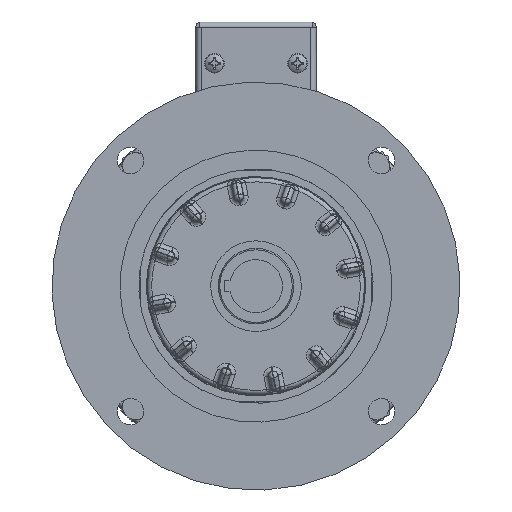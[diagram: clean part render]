
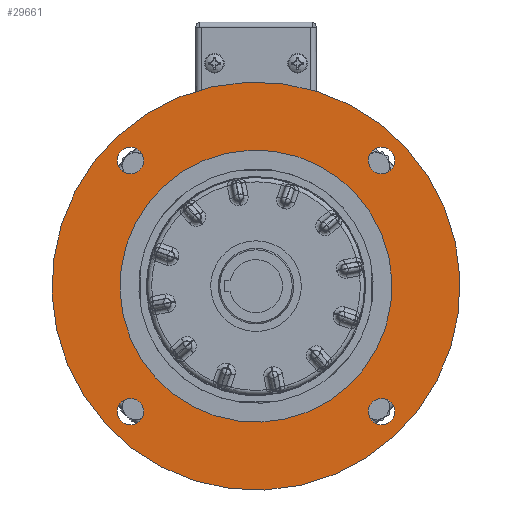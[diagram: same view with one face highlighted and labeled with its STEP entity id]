
A CAD part, front view. The second image highlights one B-rep face of the part: STEP entity #29661.
In plain terms, the highlighted planar face has unit normal (0, -1, 0).
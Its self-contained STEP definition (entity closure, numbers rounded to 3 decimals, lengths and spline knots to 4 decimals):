
#1327=FACE_BOUND('',#5174,.T.);
#1328=FACE_BOUND('',#5175,.T.);
#1329=FACE_BOUND('',#5176,.T.);
#1330=FACE_BOUND('',#5177,.T.);
#1331=FACE_BOUND('',#5178,.T.);
#1694=PLANE('',#32522);
#3202=FACE_OUTER_BOUND('',#5173,.T.);
#5173=EDGE_LOOP('',(#25426));
#5174=EDGE_LOOP('',(#25427));
#5175=EDGE_LOOP('',(#25428));
#5176=EDGE_LOOP('',(#25429));
#5177=EDGE_LOOP('',(#25430));
#5178=EDGE_LOOP('',(#25431));
#8326=CIRCLE('',#32523,3.375);
#8327=CIRCLE('',#32524,0.2188);
#8328=CIRCLE('',#32525,0.2188);
#8329=CIRCLE('',#32526,0.2188);
#8330=CIRCLE('',#32527,0.2188);
#8331=CIRCLE('',#32528,2.25);
#13492=VERTEX_POINT('',#83106);
#13493=VERTEX_POINT('',#83108);
#13494=VERTEX_POINT('',#83110);
#13495=VERTEX_POINT('',#83112);
#13496=VERTEX_POINT('',#83114);
#13497=VERTEX_POINT('',#83116);
#17596=EDGE_CURVE('',#13492,#13492,#8326,.T.);
#17597=EDGE_CURVE('',#13493,#13493,#8327,.T.);
#17598=EDGE_CURVE('',#13494,#13494,#8328,.T.);
#17599=EDGE_CURVE('',#13495,#13495,#8329,.T.);
#17600=EDGE_CURVE('',#13496,#13496,#8330,.T.);
#17601=EDGE_CURVE('',#13497,#13497,#8331,.T.);
#25426=ORIENTED_EDGE('',*,*,#17596,.T.);
#25427=ORIENTED_EDGE('',*,*,#17597,.F.);
#25428=ORIENTED_EDGE('',*,*,#17598,.F.);
#25429=ORIENTED_EDGE('',*,*,#17599,.F.);
#25430=ORIENTED_EDGE('',*,*,#17600,.F.);
#25431=ORIENTED_EDGE('',*,*,#17601,.F.);
#29661=ADVANCED_FACE('',(#3202,#1327,#1328,#1329,#1330,#1331),#1694,.F.);
#32522=AXIS2_PLACEMENT_3D('',#83105,#39061,#39062);
#32523=AXIS2_PLACEMENT_3D('',#83107,#39063,#39064);
#32524=AXIS2_PLACEMENT_3D('',#83109,#39065,#39066);
#32525=AXIS2_PLACEMENT_3D('',#83111,#39067,#39068);
#32526=AXIS2_PLACEMENT_3D('',#83113,#39069,#39070);
#32527=AXIS2_PLACEMENT_3D('',#83115,#39071,#39072);
#32528=AXIS2_PLACEMENT_3D('',#83117,#39073,#39074);
#39061=DIRECTION('center_axis',(0.,1.,0.));
#39062=DIRECTION('ref_axis',(0.383,0.,-0.924));
#39063=DIRECTION('center_axis',(0.,-1.,0.));
#39064=DIRECTION('ref_axis',(-0.383,0.,0.924));
#39065=DIRECTION('center_axis',(0.,-1.,0.));
#39066=DIRECTION('ref_axis',(-0.383,0.,0.924));
#39067=DIRECTION('center_axis',(0.,-1.,0.));
#39068=DIRECTION('ref_axis',(-0.383,0.,0.924));
#39069=DIRECTION('center_axis',(0.,-1.,0.));
#39070=DIRECTION('ref_axis',(-0.383,0.,0.924));
#39071=DIRECTION('center_axis',(0.,-1.,0.));
#39072=DIRECTION('ref_axis',(-0.383,0.,0.924));
#39073=DIRECTION('center_axis',(0.,-1.,0.));
#39074=DIRECTION('ref_axis',(-0.383,0.,0.924));
#83105=CARTESIAN_POINT('Origin',(-3.1181,-1.75,-1.2916));
#83106=CARTESIAN_POINT('',(1.2916,-1.75,-3.1181));
#83107=CARTESIAN_POINT('Origin',(0.,-1.75,0.));
#83108=CARTESIAN_POINT('',(-1.9934,-1.75,1.875));
#83109=CARTESIAN_POINT('Origin',(-2.0771,-1.75,2.0771));
#83110=CARTESIAN_POINT('',(-1.9934,-1.75,-2.2792));
#83111=CARTESIAN_POINT('Origin',(-2.0771,-1.75,-2.0771));
#83112=CARTESIAN_POINT('',(2.1608,-1.75,-2.2792));
#83113=CARTESIAN_POINT('Origin',(2.0771,-1.75,-2.0771));
#83114=CARTESIAN_POINT('',(2.1608,-1.75,1.875));
#83115=CARTESIAN_POINT('Origin',(2.0771,-1.75,2.0771));
#83116=CARTESIAN_POINT('',(0.861,-1.75,-2.0787));
#83117=CARTESIAN_POINT('Origin',(0.,-1.75,0.));
